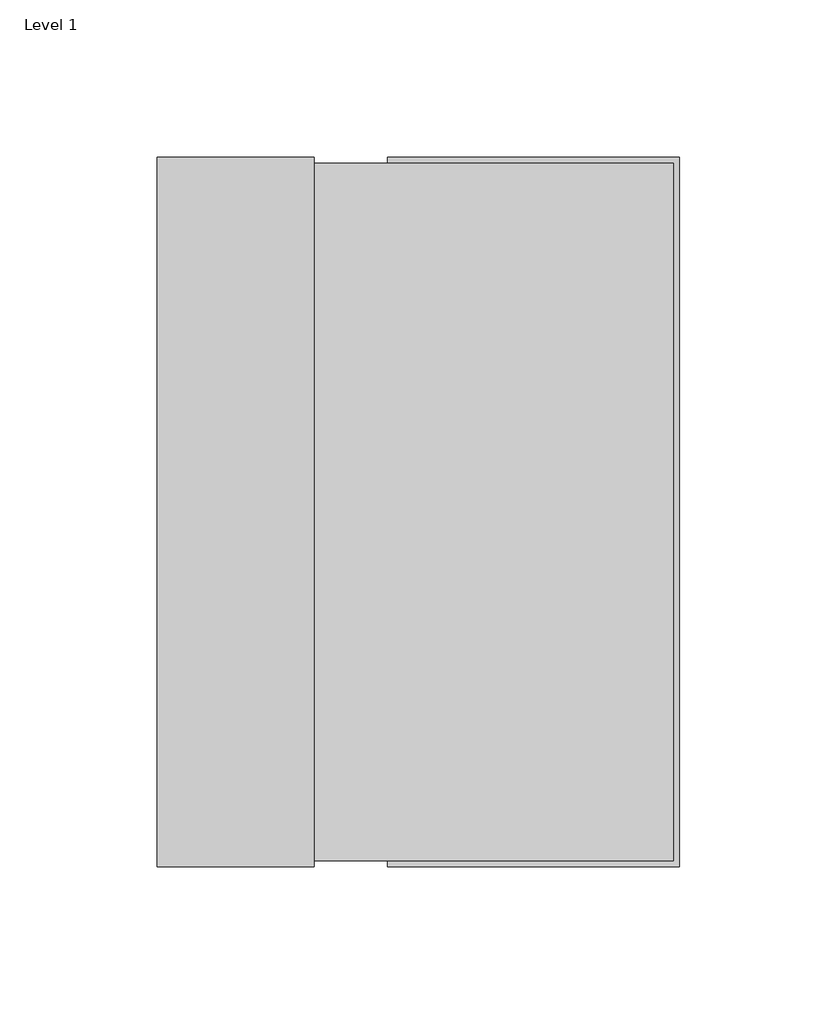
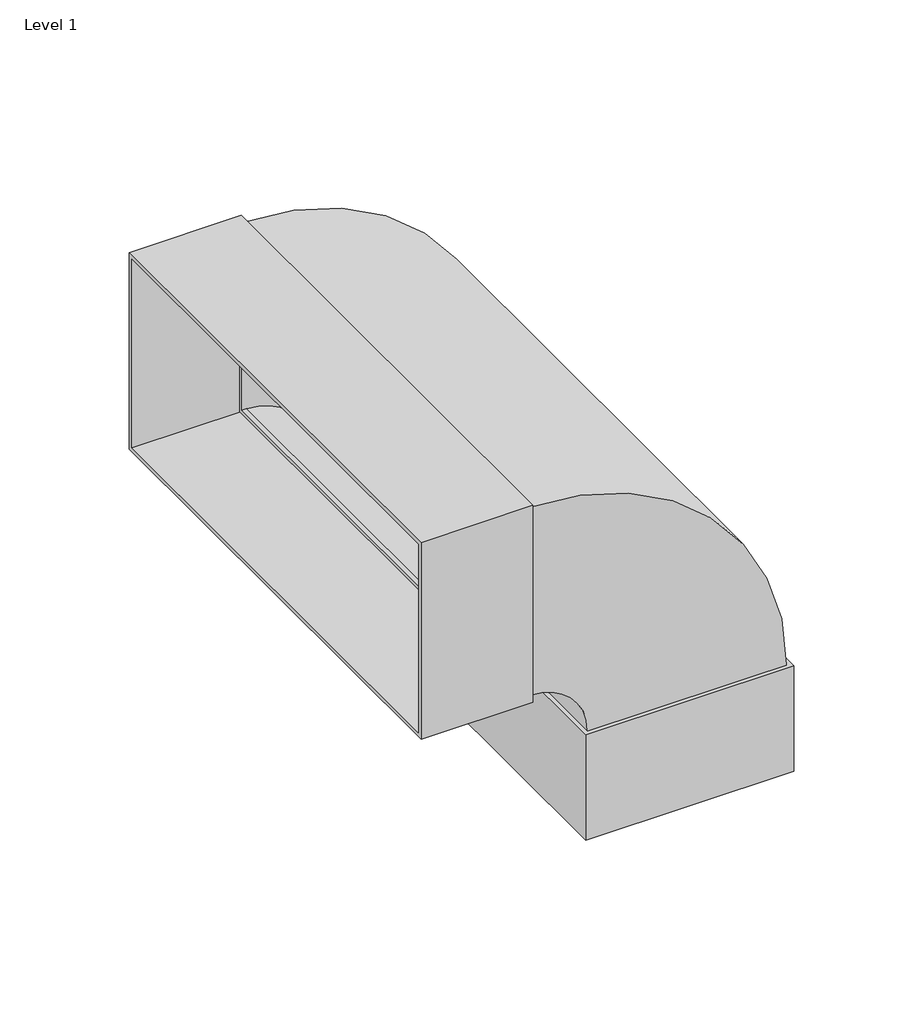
# One storey: 1 proxy.
"""IFC4 building model written with IfcOpenShell, lengths in millimetres."""

from ifc_helpers import new_model, si_unit, origin, place, context, project, spatial, transform, mapped, element, save
from components import specialty_equipment_45808fcd

model = new_model("IFC4")

# Units and contexts
model_context = context("Model", 3, world=origin())
ifc_project = project(units=[si_unit("LENGTHUNIT", "METRE", prefix="MILLI")], contexts=[model_context])

# Site, building, storey
site = spatial("IfcSite", under=ifc_project)
building = spatial("IfcBuilding", under=site)
storey = spatial("IfcBuildingStorey", under=building, Name="Level 1", Elevation=0.0)

# Proxy
placement = place(None, origin())
specialty_equipment_shape = specialty_equipment_45808fcd(model_context)
element("IfcBuildingElementProxy", 1, Name="10811410_D_DFK-BV90 : 28996391_D_10811410_DFK-BV90", ObjectType="10811410_D_DFK-BV90 : 28996391_D_10811410_DFK-BV90", at=placement, inside=storey, context=model_context, shape_type="MappedRepresentation", body=[
    mapped(specialty_equipment_shape, transform((0.0, 0.0, 0.0), x_axis=(1.0, 0.0, 0.0), y_axis=(0.0, 1.0, 0.0), z_axis=(0.0, 0.0, 1.0))),
])

save(model, "model.ifc")
